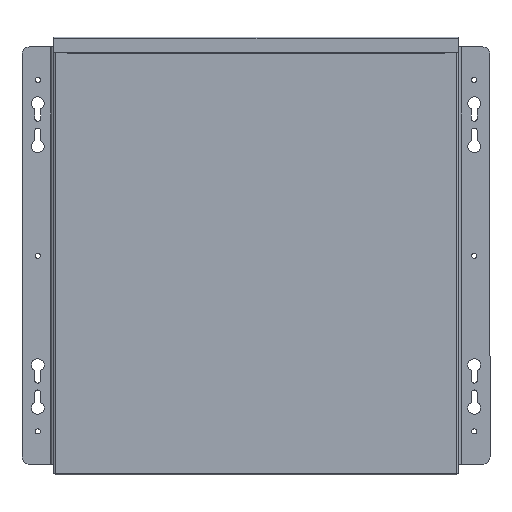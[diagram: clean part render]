
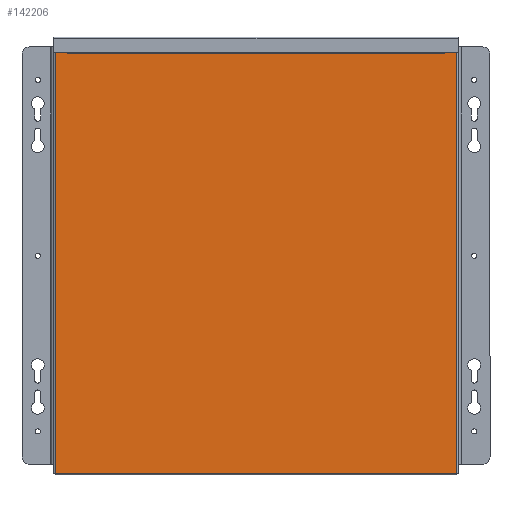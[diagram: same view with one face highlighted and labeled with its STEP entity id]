
A CAD part, top view. The second image highlights one B-rep face of the part: STEP entity #142206.
In plain terms, the highlighted planar face has unit normal (0, 0, 1).
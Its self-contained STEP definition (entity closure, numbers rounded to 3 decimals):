
#38 = VERTEX_POINT ( 'NONE', #101191 ) ;
#670 = VECTOR ( 'NONE', #59283, 1000. ) ;
#3135 = LINE ( 'NONE', #47067, #108800 ) ;
#3264 = VERTEX_POINT ( 'NONE', #143992 ) ;
#3310 = EDGE_LOOP ( 'NONE', ( #90557, #24958, #34019, #6026, #41654, #39216, #75400, #11112, #83153, #101245, #122697, #12616 ) ) ;
#4623 = EDGE_CURVE ( 'NONE', #75648, #79716, #121047, .T. ) ;
#6026 = ORIENTED_EDGE ( 'NONE', *, *, #102301, .T. ) ;
#6681 = DIRECTION ( 'NONE',  ( 0., 0., 1. ) ) ;
#8392 = VERTEX_POINT ( 'NONE', #61487 ) ;
#9721 = DIRECTION ( 'NONE',  ( 0., 1., 0. ) ) ;
#10988 = DIRECTION ( 'NONE',  ( -1., 0., 0. ) ) ;
#11112 = ORIENTED_EDGE ( 'NONE', *, *, #95886, .T. ) ;
#12260 = DIRECTION ( 'NONE',  ( 0., 1., 0. ) ) ;
#12616 = ORIENTED_EDGE ( 'NONE', *, *, #56123, .T. ) ;
#13988 = CARTESIAN_POINT ( 'NONE',  ( 148.798, 173.398, 1.2 ) ) ;
#18927 = DIRECTION ( 'NONE',  ( 0., -1., 0. ) ) ;
#21207 = VERTEX_POINT ( 'NONE', #48511 ) ;
#21529 = VECTOR ( 'NONE', #10988, 1000. ) ;
#24958 = ORIENTED_EDGE ( 'NONE', *, *, #4623, .T. ) ;
#27667 = EDGE_CURVE ( 'NONE', #8392, #59700, #112174, .T. ) ;
#27842 = CARTESIAN_POINT ( 'NONE',  ( 158.798, 0., 1.2 ) ) ;
#28064 = VECTOR ( 'NONE', #129340, 1000. ) ;
#28423 = LINE ( 'NONE', #100111, #147035 ) ;
#30673 = CARTESIAN_POINT ( 'NONE',  ( 148.8, 173.398, 1.2 ) ) ;
#31209 = EDGE_CURVE ( 'NONE', #129293, #75648, #55557, .T. ) ;
#34019 = ORIENTED_EDGE ( 'NONE', *, *, #127307, .T. ) ;
#36775 = CARTESIAN_POINT ( 'NONE',  ( -158.798, 174.6, 1.2 ) ) ;
#37514 = EDGE_CURVE ( 'NONE', #38, #134645, #132729, .T. ) ;
#39216 = ORIENTED_EDGE ( 'NONE', *, *, #37514, .T. ) ;
#41445 = CARTESIAN_POINT ( 'NONE',  ( 0., 0., 1.2 ) ) ;
#41654 = ORIENTED_EDGE ( 'NONE', *, *, #150380, .T. ) ;
#42069 = CARTESIAN_POINT ( 'NONE',  ( 160., 174.6, 1.2 ) ) ;
#43782 = DIRECTION ( 'NONE',  ( 0., 1., 0. ) ) ;
#44201 = CARTESIAN_POINT ( 'NONE',  ( -158.796, -158.398, 1.2 ) ) ;
#47067 = CARTESIAN_POINT ( 'NONE',  ( -158.798, -158.398, 1.2 ) ) ;
#48294 = VECTOR ( 'NONE', #60211, 1000. ) ;
#48511 = CARTESIAN_POINT ( 'NONE',  ( -148.8, 174.6, 1.2 ) ) ;
#52463 = CARTESIAN_POINT ( 'NONE',  ( 158.796, -158.398, 1.2 ) ) ;
#53997 = EDGE_CURVE ( 'NONE', #21207, #59700, #73601, .T. ) ;
#55098 = CARTESIAN_POINT ( 'NONE',  ( -158.798, 159.6, 1.2 ) ) ;
#55557 = LINE ( 'NONE', #136302, #144260 ) ;
#56123 = EDGE_CURVE ( 'NONE', #8392, #129293, #3135, .T. ) ;
#56460 = CARTESIAN_POINT ( 'NONE',  ( 0., 173.398, 1.2 ) ) ;
#57330 = LINE ( 'NONE', #27842, #148138 ) ;
#58172 = CARTESIAN_POINT ( 'NONE',  ( 148.8, 173.398, 1.2 ) ) ;
#59283 = DIRECTION ( 'NONE',  ( 1., 0., 0. ) ) ;
#59700 = VERTEX_POINT ( 'NONE', #36775 ) ;
#60211 = DIRECTION ( 'NONE',  ( -1., 0., 0. ) ) ;
#61487 = CARTESIAN_POINT ( 'NONE',  ( -158.798, -158.398, 1.2 ) ) ;
#73601 = LINE ( 'NONE', #42069, #75358 ) ;
#75358 = VECTOR ( 'NONE', #146675, 1000. ) ;
#75400 = ORIENTED_EDGE ( 'NONE', *, *, #100226, .T. ) ;
#75648 = VERTEX_POINT ( 'NONE', #52463 ) ;
#77642 = CARTESIAN_POINT ( 'NONE',  ( 158.798, -158.398, 1.2 ) ) ;
#79716 = VERTEX_POINT ( 'NONE', #77642 ) ;
#79731 = LINE ( 'NONE', #58172, #48294 ) ;
#80615 = VECTOR ( 'NONE', #43782, 1000. ) ;
#83153 = ORIENTED_EDGE ( 'NONE', *, *, #146374, .T. ) ;
#86247 = CARTESIAN_POINT ( 'NONE',  ( -148.798, 173.398, 1.2 ) ) ;
#88180 = VECTOR ( 'NONE', #129328, 1000. ) ;
#90557 = ORIENTED_EDGE ( 'NONE', *, *, #31209, .T. ) ;
#92560 = DIRECTION ( 'NONE',  ( 1., 0., 0. ) ) ;
#93081 = CARTESIAN_POINT ( 'NONE',  ( 160., 174.6, 1.2 ) ) ;
#93510 = VERTEX_POINT ( 'NONE', #86247 ) ;
#94454 = CARTESIAN_POINT ( 'NONE',  ( -148.8, 174.6, 1.2 ) ) ;
#95886 = EDGE_CURVE ( 'NONE', #93510, #115166, #79731, .T. ) ;
#100111 = CARTESIAN_POINT ( 'NONE',  ( 148.8, 174.6, 1.2 ) ) ;
#100226 = EDGE_CURVE ( 'NONE', #134645, #93510, #137400, .T. ) ;
#101191 = CARTESIAN_POINT ( 'NONE',  ( 148.8, 173.398, 1.2 ) ) ;
#101245 = ORIENTED_EDGE ( 'NONE', *, *, #53997, .T. ) ;
#102301 = EDGE_CURVE ( 'NONE', #103795, #3264, #127139, .T. ) ;
#103795 = VERTEX_POINT ( 'NONE', #109597 ) ;
#108322 = LINE ( 'NONE', #94454, #141582 ) ;
#108800 = VECTOR ( 'NONE', #92560, 1000. ) ;
#109597 = CARTESIAN_POINT ( 'NONE',  ( 158.798, 174.6, 1.2 ) ) ;
#112174 = LINE ( 'NONE', #55098, #80615 ) ;
#115166 = VERTEX_POINT ( 'NONE', #141352 ) ;
#121047 = LINE ( 'NONE', #147463, #670 ) ;
#122697 = ORIENTED_EDGE ( 'NONE', *, *, #27667, .F. ) ;
#127139 = LINE ( 'NONE', #93081, #88180 ) ;
#127307 = EDGE_CURVE ( 'NONE', #79716, #103795, #57330, .T. ) ;
#129293 = VERTEX_POINT ( 'NONE', #44201 ) ;
#129328 = DIRECTION ( 'NONE',  ( -1., 0., 0. ) ) ;
#129340 = DIRECTION ( 'NONE',  ( -1., 0., 0. ) ) ;
#132729 = LINE ( 'NONE', #30673, #21529 ) ;
#134645 = VERTEX_POINT ( 'NONE', #13988 ) ;
#136302 = CARTESIAN_POINT ( 'NONE',  ( 0., -158.398, 1.2 ) ) ;
#136632 = DIRECTION ( 'NONE',  ( 1., 0., 0. ) ) ;
#137201 = FACE_OUTER_BOUND ( 'NONE', #3310, .T. ) ;
#137400 = LINE ( 'NONE', #56460, #28064 ) ;
#137652 = PLANE ( 'NONE',  #142606 ) ;
#137824 = DIRECTION ( 'NONE',  ( 1., 0., 0. ) ) ;
#141352 = CARTESIAN_POINT ( 'NONE',  ( -148.8, 173.398, 1.2 ) ) ;
#141582 = VECTOR ( 'NONE', #12260, 1000. ) ;
#142206 = ADVANCED_FACE ( 'NONE', ( #137201 ), #137652, .T. ) ;
#142606 = AXIS2_PLACEMENT_3D ( 'NONE', #41445, #6681, #136632 ) ;
#143992 = CARTESIAN_POINT ( 'NONE',  ( 148.8, 174.6, 1.2 ) ) ;
#144260 = VECTOR ( 'NONE', #137824, 1000. ) ;
#146374 = EDGE_CURVE ( 'NONE', #115166, #21207, #108322, .T. ) ;
#146675 = DIRECTION ( 'NONE',  ( -1., 0., 0. ) ) ;
#147035 = VECTOR ( 'NONE', #18927, 1000. ) ;
#147463 = CARTESIAN_POINT ( 'NONE',  ( -158.798, -158.398, 1.2 ) ) ;
#148138 = VECTOR ( 'NONE', #9721, 1000. ) ;
#150380 = EDGE_CURVE ( 'NONE', #3264, #38, #28423, .T. ) ;
